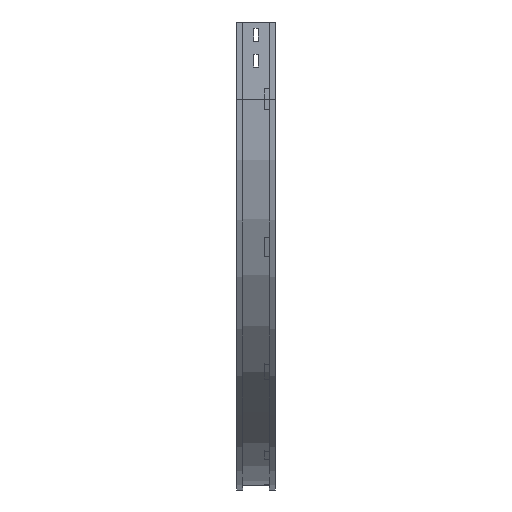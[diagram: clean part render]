
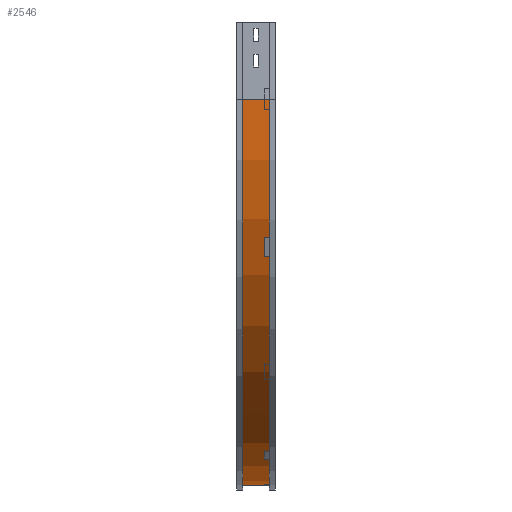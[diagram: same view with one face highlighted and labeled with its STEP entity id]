
A CAD part, left-side view. The second image highlights one B-rep face of the part: STEP entity #2546.
In plain terms, the highlighted cylindrical face has radius 750 mm (diameter 1500 mm), a partial arc.
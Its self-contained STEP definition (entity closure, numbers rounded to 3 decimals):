
#284 = FACE_OUTER_BOUND ( 'NONE', #2109, .T. ) ;
#330 = VERTEX_POINT ( 'NONE', #913 ) ;
#354 = CARTESIAN_POINT ( 'NONE',  ( 759., 12., -900. ) ) ;
#487 = DIRECTION ( 'NONE',  ( 0., -1., 0. ) ) ;
#519 = CYLINDRICAL_SURFACE ( 'NONE', #868, 750. ) ;
#549 = CARTESIAN_POINT ( 'NONE',  ( 759., 63., -150. ) ) ;
#552 = EDGE_CURVE ( 'NONE', #1309, #2193, #3228, .T. ) ;
#568 = VECTOR ( 'NONE', #1168, 1000. ) ;
#641 = DIRECTION ( 'NONE',  ( -1., 0., 0. ) ) ;
#657 = LINE ( 'NONE', #1977, #568 ) ;
#755 = ORIENTED_EDGE ( 'NONE', *, *, #552, .T. ) ;
#868 = AXIS2_PLACEMENT_3D ( 'NONE', #2668, #1609, #3410 ) ;
#913 = CARTESIAN_POINT ( 'NONE',  ( 9., 12., -150. ) ) ;
#997 = AXIS2_PLACEMENT_3D ( 'NONE', #2267, #3324, #641 ) ;
#1115 = ORIENTED_EDGE ( 'NONE', *, *, #2629, .T. ) ;
#1155 = ORIENTED_EDGE ( 'NONE', *, *, #1683, .F. ) ;
#1168 = DIRECTION ( 'NONE',  ( 0., -1., 0. ) ) ;
#1309 = VERTEX_POINT ( 'NONE', #3272 ) ;
#1426 = CIRCLE ( 'NONE', #997, 750. ) ;
#1497 = DIRECTION ( 'NONE',  ( 0., -1., 0. ) ) ;
#1544 = VECTOR ( 'NONE', #1497, 1000. ) ;
#1609 = DIRECTION ( 'NONE',  ( 0., -1., 0. ) ) ;
#1683 = EDGE_CURVE ( 'NONE', #2727, #330, #657, .T. ) ;
#1977 = CARTESIAN_POINT ( 'NONE',  ( 9., 12., -150. ) ) ;
#2052 = AXIS2_PLACEMENT_3D ( 'NONE', #549, #487, #2358 ) ;
#2109 = EDGE_LOOP ( 'NONE', ( #2472, #1155, #1115, #755 ) ) ;
#2193 = VERTEX_POINT ( 'NONE', #2520 ) ;
#2267 = CARTESIAN_POINT ( 'NONE',  ( 759., 12., -150. ) ) ;
#2358 = DIRECTION ( 'NONE',  ( -1., 0., 0. ) ) ;
#2472 = ORIENTED_EDGE ( 'NONE', *, *, #3112, .F. ) ;
#2520 = CARTESIAN_POINT ( 'NONE',  ( 759., 12., -900. ) ) ;
#2546 = ADVANCED_FACE ( 'NONE', ( #284 ), #519, .T. ) ;
#2629 = EDGE_CURVE ( 'NONE', #2727, #1309, #2886, .T. ) ;
#2668 = CARTESIAN_POINT ( 'NONE',  ( 759., 0., -150. ) ) ;
#2727 = VERTEX_POINT ( 'NONE', #3239 ) ;
#2886 = CIRCLE ( 'NONE', #2052, 750. ) ;
#3112 = EDGE_CURVE ( 'NONE', #330, #2193, #1426, .T. ) ;
#3228 = LINE ( 'NONE', #354, #1544 ) ;
#3239 = CARTESIAN_POINT ( 'NONE',  ( 9., 63., -150. ) ) ;
#3272 = CARTESIAN_POINT ( 'NONE',  ( 759., 63., -900. ) ) ;
#3324 = DIRECTION ( 'NONE',  ( 0., -1., 0. ) ) ;
#3410 = DIRECTION ( 'NONE',  ( 0., 0., -1. ) ) ;
